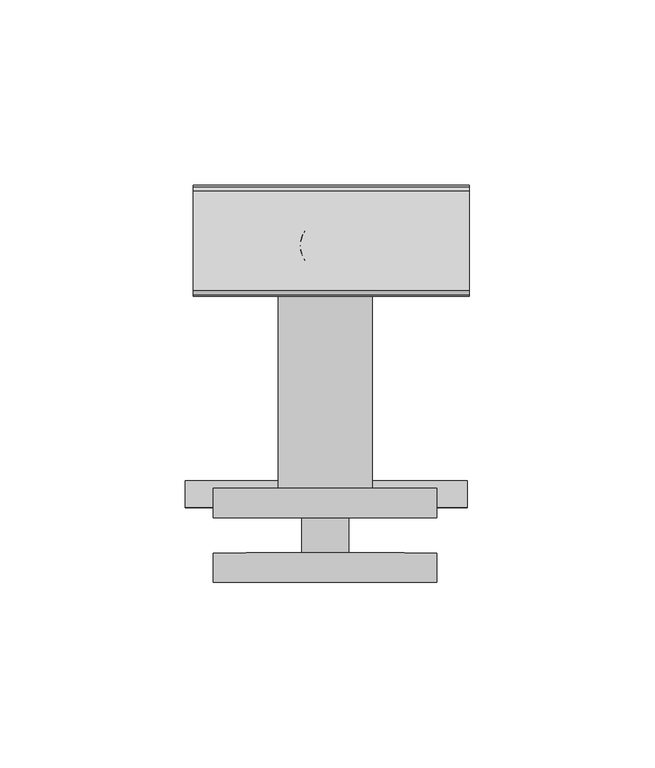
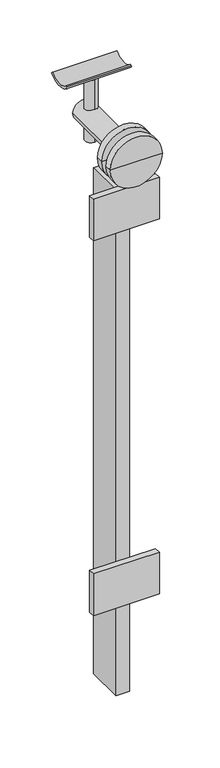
"""IFC4 building model written with IfcOpenShell, lengths in millimetres: proxy geometry, Baluster-End-Post-VIVA-STRUC-Top Mount-Stair : WELDED STEEL CHANNEL_TOP MOUNT STRUC_STAIR."""

from ifc_helpers import new_model, si_unit, point, frame, frame_2d, origin, place, context, project, spatial, polyline, circle_curve, trimmed, segment, composite_curve, outline, extrude, source, transform, mapped, element, save
from ifc_brep_helpers import plane_surface, cylinder_surface, advanced_brep


def building_element_proxy_a02ecdc2(model_context):
    return source(origin(), model_context, "Body", "SolidModel", [
        advanced_brep(
        [(-30.4813346, -136.2128652, 156.7243555), (-6.6688346, -136.2128652, 156.7243555), (6.0311654, -136.2128652, 156.7243555), (29.8436654, -136.2128652, 156.7243555), (-30.4813346, -144.1503652, 156.7243555), (29.8436654, -144.1503652, 156.7243555), (-30.4813346, -118.7498509, 156.7243555), (-13.0188346, -118.7498509, 156.7243555), (12.3811654, -118.7498509, 156.7243555), (29.8436654, -118.7498509, 156.7243555), (-30.4813346, -126.6873509, 156.7243555), (29.8436654, -126.6873509, 156.7243555), (-0.3188346, -144.1503652, 156.7243555), (-13.0188346, -39.3748509, 156.7243555), (-0.3188346, -39.3748509, 156.7243555), (12.3811654, -39.3748509, 156.7243555), (-6.6688346, -126.6873509, 156.7243555), (6.0311654, -126.6873509, 156.7243555)],
        [
            (0, 1),
            (1, 2, circle_curve(frame((-0.3188346, -136.2128652, 156.7243555), z_axis=(0.0, -1.0, 0.0), x_axis=(1.0, 0.0, 0.0)), 6.35)),
            (2, 3),
            (3, 0, circle_curve(frame((-0.3188346, -136.2128652, 156.7243555), z_axis=(0.0, 1.0, 0.0), x_axis=(1.0, 0.0, 0.0)), 30.1625)),
            (4, 0),
            (3, 5),
            (5, 4, circle_curve(frame((-0.3188346, -144.1503652, 156.7243555), z_axis=(0.0, 1.0, 0.0), x_axis=(1.0, 0.0, 0.0)), 30.1625)),
            (6, 7),
            (7, 8, circle_curve(frame((-0.3188346, -118.7498509, 156.7243555), z_axis=(0.0, -1.0, 0.0), x_axis=(1.0, 0.0, 0.0)), 12.7)),
            (8, 9),
            (9, 6, circle_curve(frame((-0.3188346, -118.7498509, 156.7243555), z_axis=(0.0, 1.0, 0.0), x_axis=(1.0, 0.0, 0.0)), 30.1625)),
            (10, 6),
            (9, 11),
            (11, 10, circle_curve(frame((-0.3188346, -126.6873509, 156.7243555), z_axis=(0.0, 1.0, 0.0), x_axis=(1.0, 0.0, 0.0)), 30.1625)),
            (3, 0, circle_curve(frame((-0.3188346, -136.2128652, 156.7243555), z_axis=(0.0, -1.0, 0.0), x_axis=(1.0, 0.0, 0.0)), 30.1625)),
            (4, 5, circle_curve(frame((-0.3188346, -144.1503652, 156.7243555), z_axis=(0.0, 1.0, 0.0), x_axis=(1.0, 0.0, 0.0)), 30.1625)),
            (12, 4),
            (5, 12),
            (13, 14),
            (14, 15),
            (15, 13, circle_curve(frame((-0.3188346, -39.3748509, 156.7243555), z_axis=(0.0, 1.0, 0.0), x_axis=(1.0, 0.0, 0.0)), 12.7)),
            (13, 15, circle_curve(frame((-0.3188346, -39.3748509, 156.7243555), z_axis=(0.0, 1.0, 0.0), x_axis=(1.0, 0.0, 0.0)), 12.7)),
            (7, 13),
            (15, 8),
            (7, 8, circle_curve(frame((-0.3188346, -118.7498509, 156.7243555), z_axis=(0.0, 1.0, 0.0), x_axis=(1.0, 0.0, 0.0)), 12.7)),
            (6, 9, circle_curve(frame((-0.3188346, -118.7498509, 156.7243555), z_axis=(0.0, 1.0, 0.0), x_axis=(1.0, 0.0, 0.0)), 30.1625)),
            (10, 11, circle_curve(frame((-0.3188346, -126.6873509, 156.7243555), z_axis=(0.0, 1.0, 0.0), x_axis=(1.0, 0.0, 0.0)), 30.1625)),
            (16, 10),
            (11, 17),
            (17, 16, circle_curve(frame((-0.3188346, -126.6873509, 156.7243555), z_axis=(0.0, 1.0, 0.0), x_axis=(1.0, 0.0, 0.0)), 6.35)),
            (16, 17, circle_curve(frame((-0.3188346, -126.6873509, 156.7243555), z_axis=(0.0, 1.0, 0.0), x_axis=(1.0, 0.0, 0.0)), 6.35)),
            (1, 16),
            (17, 2),
            (1, 2, circle_curve(frame((-0.3188346, -136.2128652, 156.7243555), z_axis=(0.0, 1.0, 0.0), x_axis=(1.0, 0.0, 0.0)), 6.35)),
        ],
        [
            plane_surface(frame((-0.3188346, -136.2128652, 156.7243555), z_axis=(0.0, 1.0, 0.0), x_axis=(1.0, 0.0, 0.0))),
            cylinder_surface(frame((-0.3188346, -1650.6873509, 156.7243555), z_axis=(0.0, -1.0, 0.0), x_axis=(1.0, 0.0, 0.0)), 30.1625),
            plane_surface(frame((-0.3188346, -118.7498509, 156.7243555), z_axis=(0.0, 1.0, 0.0), x_axis=(1.0, 0.0, 0.0))),
            plane_surface(frame((-0.3188346, -144.1503652, 156.7243555), z_axis=(0.0, -1.0, 0.0), x_axis=(1.0, 0.0, 0.0))),
            plane_surface(frame((-0.3188346, -39.3748509, 156.7243555), z_axis=(0.0, 1.0, 0.0), x_axis=(1.0, 0.0, 0.0))),
            cylinder_surface(frame((-0.3188346, -1650.6873509, 156.7243555), z_axis=(0.0, -1.0, 0.0), x_axis=(1.0, 0.0, 0.0)), 12.7),
            plane_surface(frame((-0.3188346, -126.6873509, 156.7243555), z_axis=(0.0, -1.0, 0.0), x_axis=(1.0, 0.0, 0.0))),
            cylinder_surface(frame((-0.3188346, -1650.6873509, 156.7243555), z_axis=(0.0, -1.0, 0.0), x_axis=(1.0, 0.0, 0.0)), 6.35),
        ],
        [
            (0, [[1, 2, 3, 4]]),
            (1, [[5, -4, 6, 7]]),
            (2, [[8, 9, 10, 11]]),
            (1, [[12, -11, 13, 14]]),
            (1, [[-6, 15, -5, 16]]),
            (3, [[17, -7, 18]]),
            (3, [[-18, -16, -17]]),
            (4, [[19, 20, 21]]),
            (4, [[-20, -19, 22]]),
            (5, [[23, -21, 24, -9]]),
            (5, [[-24, -22, -23, 25]]),
            (2, [[-10, -25, -8, 26]]),
            (1, [[-13, -26, -12, 27]]),
            (6, [[28, -14, 29, 30]]),
            (6, [[-29, -27, -28, 31]]),
            (7, [[32, -30, 33, -2]]),
            (7, [[-33, -31, -32, 34]]),
            (0, [[-3, -34, -1, -15]]),
        ],
    ),
        extrude(outline(composite_curve([segment(trimmed(circle_curve(frame_2d((0.0, 7.0)), 7.0), [point((0.0, 14.0))], [point((0.0, 0.0))], False, "CARTESIAN"), True, "CONTINUOUS"), segment(trimmed(circle_curve(frame_2d((0.0, 7.0)), 7.0), [point((0.0, 0.0))], [point((0.0, 14.0))], False, "CARTESIAN"), True, "CONTINUOUS")], self_intersect=False)), frame((-0.0962106, -60.22249, 129.823392), z_axis=(0.0012664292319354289, 0.0, 0.9999991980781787), x_axis=(0.9999991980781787, 0.0, -0.0012664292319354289)), (0.0, 0.0, 1.0), 75.97),
        extrude(outline(composite_curve([segment(trimmed(circle_curve(frame_2d((18.6575251, 0.3952033)), 19.05), [point((5.2466064, 13.9247915))], [point((5.2466064, -13.134385))], True, "CARTESIAN"), True, "CONTINUOUS"), segment(polyline([(5.2466064, -13.134385), (4.2292193, -14.1607746)]), True, "CONTINUOUS"), segment(trimmed(circle_curve(frame_2d((3.1638974, -13.1047967)), 1.5), [point((4.2292193, -14.1607746))], [point((2.0329757, -14.0901982))], False, "CARTESIAN"), True, "CONTINUOUS"), segment(trimmed(circle_curve(frame_2d((18.6575251, 0.3952033)), 22.05), [point((2.0329757, -14.0901982))], [point((2.0329757, 14.8806047))], False, "CARTESIAN"), True, "CONTINUOUS"), segment(trimmed(circle_curve(frame_2d((3.1638974, 13.8952033)), 1.5), [point((2.0329757, 14.8806047))], [point((4.2292193, 14.9511811))], False, "CARTESIAN"), True, "CONTINUOUS"), segment(polyline([(4.2292193, 14.9511811), (5.2466064, 13.9247915)]), True, "CONTINUOUS")], self_intersect=False)), frame((-35.8856441, -51.4952577, 209.2122068), z_axis=(0.9999999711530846, 0.0, 0.0002401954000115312), x_axis=(-0.0002401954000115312, 0.0, 0.9999999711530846)), (0.0, 0.0, 1.0), 74.5229187),
        extrude(outline(polyline([(-38.1007192, -123.8478567), (-38.1007192, -116.7358567), (38.1007192, -116.7358567), (38.1007192, -123.8478567), (-38.1007192, -123.8478567)])), frame((0.0, 0.0, 61.2476928), z_axis=(0.0, 0.0, 1.0), x_axis=(1.0, 0.0, 0.0)), (0.0, 0.0, 1.0), 50.8),
        extrude(outline(polyline([(-38.1007192, -123.8478567), (-38.1007192, -116.7358567), (38.1007192, -116.7358567), (38.1007192, -123.8478567), (-38.1007192, -123.8478567)])), frame((0.0, 0.0, -395.9523072), z_axis=(0.0, 0.0, 1.0), x_axis=(1.0, 0.0, 0.0)), (0.0, 0.0, 1.0), 50.8),
        extrude(outline(polyline([(-7.9375, -72.2858567), (7.9375, -72.2858567), (7.9375, -116.7358567), (-7.9375, -116.7358567), (-7.9375, -72.2858567)])), frame((0.0, 0.0, -508.6286445), z_axis=(0.0, 0.0, 1.0), x_axis=(1.0, 0.0, 0.0)), (0.0, 0.0, 1.0), 617.2631745),
    ])


if __name__ == "__main__":
    model = new_model("IFC4")
    model_context = context("Model", 3, world=origin())
    ifc_project = project(units=[si_unit("LENGTHUNIT", "METRE", prefix="MILLI")], contexts=[model_context])
    site = spatial("IfcSite", under=ifc_project)
    building = spatial("IfcBuilding", under=site)
    placement = place(None, origin())
    building_element_proxy_shape = building_element_proxy_a02ecdc2(model_context)
    element("IfcBuildingElementProxy", 1, Name="Baluster-End-Post-VIVA-STRUC-Top Mount-Stair : WELDED STEEL CHANNEL_TOP MOUNT STRUC_STAIR", ObjectType="Baluster-End-Post-VIVA-STRUC-Top Mount-Stair : WELDED STEEL CHANNEL_TOP MOUNT STRUC_STAIR", at=placement, inside=building, context=model_context, shape_type="MappedRepresentation", body=[
        mapped(building_element_proxy_shape, transform((0.0, 0.0, 0.0), x_axis=(1.0, 0.0, 0.0), y_axis=(0.0, 1.0, 0.0), z_axis=(0.0, 0.0, 1.0))),
    ])
    save(model, "model.ifc")
